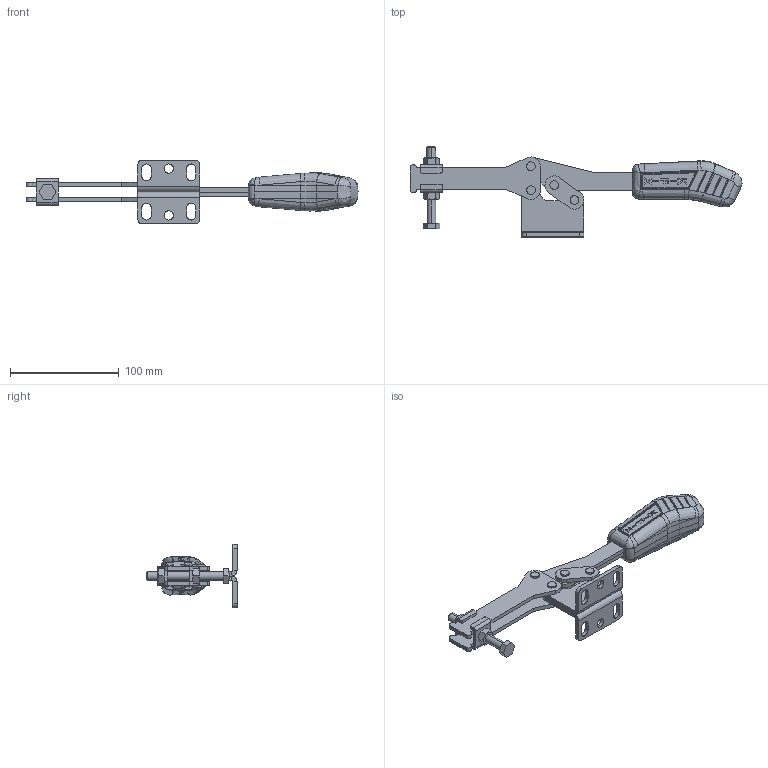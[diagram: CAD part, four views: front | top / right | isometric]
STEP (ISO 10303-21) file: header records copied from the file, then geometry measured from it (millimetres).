
FILE_DESCRIPTION (( 'STEP AP203' ), '1' );
FILE_NAME ('KF-533 D.STEP', '2014-08-18T16:57:17', ( 'Ricardo' ), ( '' ), 'SwSTEP 2.0', 'SolidWorks 2013', '' );
FILE_SCHEMA (( 'CONFIG_CONTROL_DESIGN' ));
Length unit declared in the file: millimetre
Products named in the file (12): 17.50001; 14.10010; 11.50002; 02.12081_Direita; 12.50003; 02.12081_Esquerda; 06.50053; 01.10123; KF-533 D; 03.13032; 08.10056; 07.60002
Assembly tree (26 placements, depth 2):
  KF-533 D
    02.12081_Direita
    02.12081_Esquerda
    01.10123  x2
    03.13032  x2
    08.10056  x2
    07.60002
    17.50001  x8
    14.10010  x2
    11.50002  x2
    12.50003
    06.50053  x4
Bounding box: 304.78 x 82.75 x 58 mm (x, y, z)
Volume: 168739.1 mm3; surface area: 76632.4 mm2
Topology: 26 solids, 26 shells, 814 faces, 1992 edges, 1239 vertices
Faces by surface type: plane 276, cylinder 232, bspline 157, cone 94, sphere 52, torus 3
Entity records: 23590 total; most frequent: CARTESIAN_POINT 8883, ORIENTED_EDGE 2976, DIRECTION 2335, EDGE_CURVE 1488, VERTEX_POINT 940, AXIS2_PLACEMENT_3D 885, EDGE_LOOP 656, ADVANCED_FACE 593
